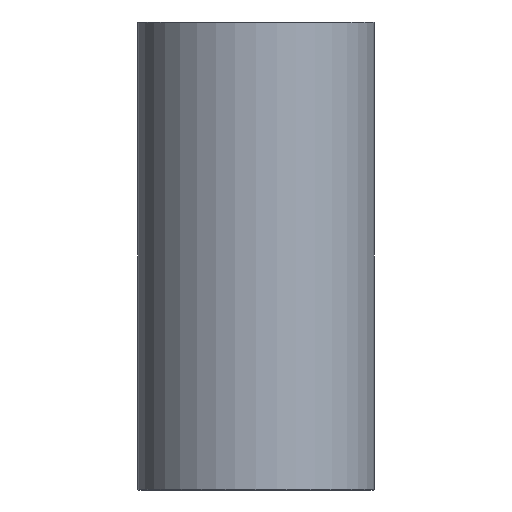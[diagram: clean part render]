
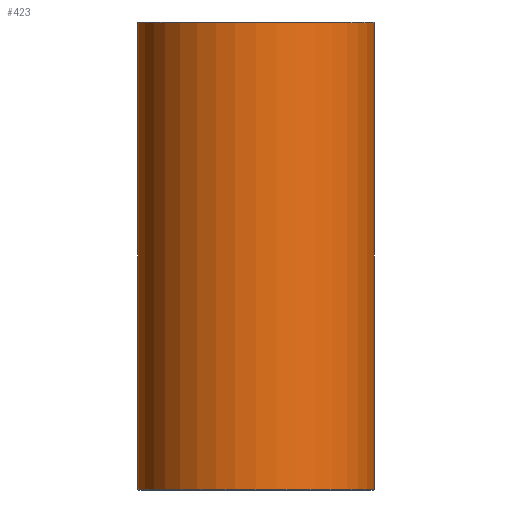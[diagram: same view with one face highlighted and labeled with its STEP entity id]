
A CAD part, front view. The second image highlights one B-rep face of the part: STEP entity #423.
In plain terms, the highlighted cylindrical face has radius 220 mm (diameter 440 mm), a full revolution.
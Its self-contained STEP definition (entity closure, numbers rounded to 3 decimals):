
#228=CYLINDRICAL_SURFACE('',#3600,220.);
#285=FACE_BOUND('',#912,.T.);
#286=FACE_BOUND('',#913,.T.);
#423=ADVANCED_FACE('',(#285,#286),#228,.T.);
#912=EDGE_LOOP('',(#1919));
#913=EDGE_LOOP('',(#1920));
#1919=ORIENTED_EDGE('',*,*,#3042,.T.);
#1920=ORIENTED_EDGE('',*,*,#3043,.T.);
#2664=VERTEX_POINT('',#7374);
#2665=VERTEX_POINT('',#7376);
#3042=EDGE_CURVE('',#2664,#2664,#3348,.T.);
#3043=EDGE_CURVE('',#2665,#2665,#3349,.T.);
#3348=CIRCLE('',#3598,220.);
#3349=CIRCLE('',#3599,220.);
#3598=AXIS2_PLACEMENT_3D('',#7373,#4131,#4132);
#3599=AXIS2_PLACEMENT_3D('',#7375,#4133,#4134);
#3600=AXIS2_PLACEMENT_3D('',#7377,#4135,#4136);
#4131=DIRECTION('',(0.,0.,1.));
#4132=DIRECTION('',(-1.,0.,0.));
#4133=DIRECTION('',(0.,0.,-1.));
#4134=DIRECTION('',(1.,0.,0.));
#4135=DIRECTION('',(0.,0.,-1.));
#4136=DIRECTION('',(-1.,0.,0.));
#7373=CARTESIAN_POINT('',(0.,0.,-739.));
#7374=CARTESIAN_POINT('',(-220.,0.,-739.));
#7375=CARTESIAN_POINT('',(0.,0.,129.));
#7376=CARTESIAN_POINT('',(220.,0.,129.));
#7377=CARTESIAN_POINT('',(0.,0.,130.));
